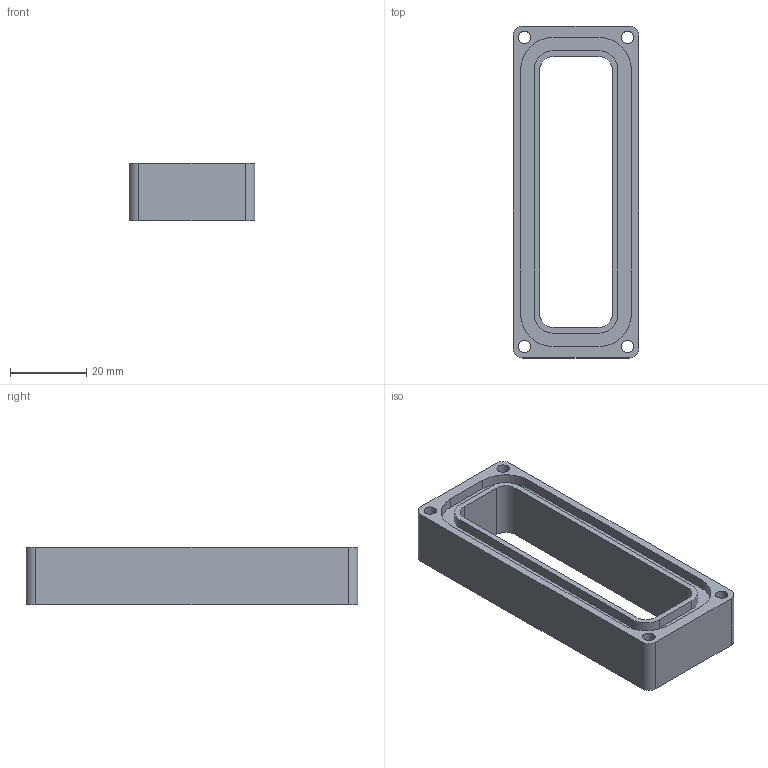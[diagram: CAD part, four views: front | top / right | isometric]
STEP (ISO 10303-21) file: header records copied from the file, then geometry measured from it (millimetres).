
FILE_DESCRIPTION(('FreeCAD Model'),'2;1');
FILE_NAME('Open CASCADE Shape Model','2025-03-27T15:26:21',(''),(''), 'Open CASCADE STEP processor 7.6','FreeCAD','Unknown');
FILE_SCHEMA(('CONFIG_CONTROL_DESIGN','SHAPE_APPEARANCE_LAYER_MIM'));
Length unit declared in the file: millimetre
Products named in the file (1): DSub50PressFitSeal
Bounding box: 33 x 87 x 15 mm (x, y, z)
Volume: 20556.9 mm3; surface area: 10803.2 mm2
Topology: 1 solids, 1 shells, 40 faces, 112 edges, 76 vertices
Faces by surface type: cylinder 20, plane 20
Full cylindrical faces by diameter (mm): 3.3 x4
Entity records: 1380 total; most frequent: DIRECTION 234, CARTESIAN_POINT 233, ORIENTED_EDGE 224, EDGE_CURVE 112, AXIS2_PLACEMENT_3D 85, VERTEX_POINT 76, LINE 64, VECTOR 64
